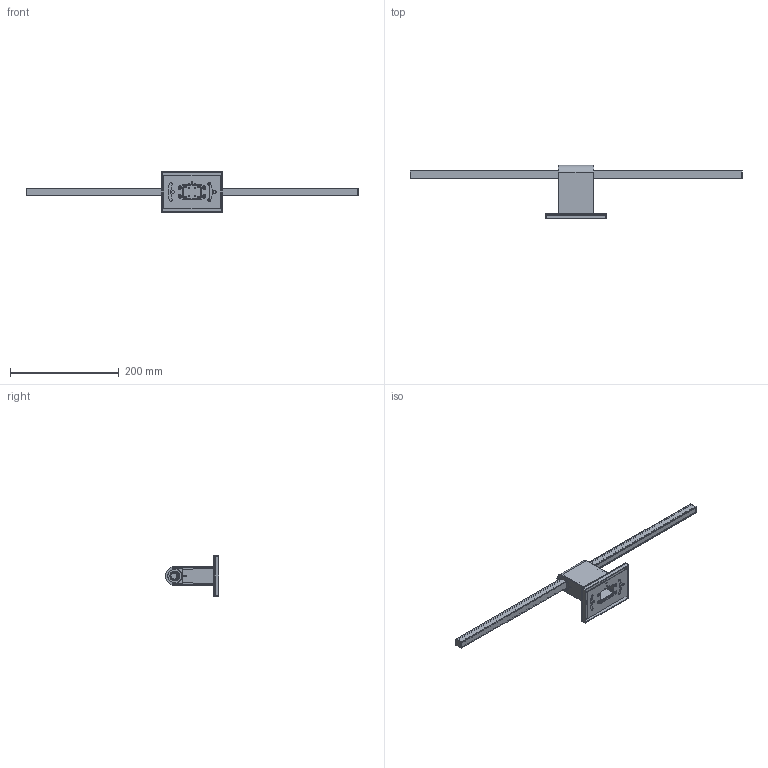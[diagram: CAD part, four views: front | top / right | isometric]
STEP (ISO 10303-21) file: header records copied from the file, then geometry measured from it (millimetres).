
FILE_DESCRIPTION(/* description */ (''),/* implementation_level */ '2;1');
FILE_NAME(/* name */ 'ws-3-24.step',/* time_stamp */ '2023-11-24T14:43:42+08:00',/* author */ (''),/* organization */ (''),/* preprocessor_version */ 'ST-DEVELOPER v20',/* originating_system */ 'Autodesk Translation Framework v12.14.0.127',/* authorisation */ '');
FILE_SCHEMA (('AUTOMOTIVE_DESIGN { 1 0 10303 214 3 1 1 }'));
Length unit declared in the file: inch
Products named in the file (22): ws-3-24; WS-3-24-E0_ASM_44_ASM; WS-BATH-3-03_9; WS-3-24-E2_ASM_14_ASM; WS-3-24-E1_ASM_43_ASM; WS-BATH-3-07_15; WS-3-24-01_21; WS-BATH-3-05_11; WS-BATH-1-06_12; WS-BATH-3-04_3; WS-BATH-3-02_16; WS-BATH-3-08_16; WS-BATH-3-E4_ASM_5_ASM; WS-3-24-16_14; WS-BATH-3-16_11; WS-BATH-3-09_12; WS-3-24-E3_ASM_16_ASM; WS-BATH-3-13_45; WS-BATH-3-12_30; WS-BATH-3-11_27; WS-BATH-3-10_17; LED-36_4
Assembly tree (28 placements, depth 5):
  ws-3-24
    WS-3-24-E0_ASM_44_ASM
      WS-BATH-3-03_9
      WS-3-24-E2_ASM_14_ASM
        WS-3-24-E1_ASM_43_ASM
          WS-BATH-3-07_15
          WS-3-24-01_21
          WS-BATH-3-05_11  x2
          WS-BATH-1-06_12  x2
          WS-BATH-3-04_3  x2
          WS-BATH-3-08_16  x2
          WS-BATH-3-02_16
        WS-BATH-3-09_12  x2
        WS-BATH-3-E4_ASM_5_ASM
          WS-3-24-16_14
          WS-BATH-3-16_11  x2
      WS-3-24-E3_ASM_16_ASM
        WS-BATH-3-13_45
        WS-BATH-3-12_30  x2
        WS-BATH-3-11_27
        WS-BATH-3-10_17
      LED-36_4
Bounding box: 611 x 98.08 x 75 mm (x, y, z)
Volume: 148126.2 mm3; surface area: 204118.9 mm2
Topology: 23 solids, 34 shells, 1099 faces, 2761 edges, 1799 vertices
Faces by surface type: plane 942, cylinder 147, cone 4, bspline 4, torus 2
Full cylindrical faces by diameter (mm): 2 x2, 2.7 x14, 2.97 x10, 3.2 x10, 3.3 x1, 3.63 x1, 5 x2, 22 x4, 23.5 x2, 25 x3, 25.2 x2, 25.5 x1
Entity records: 31277 total; most frequent: CARTESIAN_POINT 6489, ORIENTED_EDGE 4962, DIRECTION 4775, EDGE_CURVE 2493, LINE 2213, VECTOR 2213, VERTEX_POINT 1626, AXIS2_PLACEMENT_3D 1281
